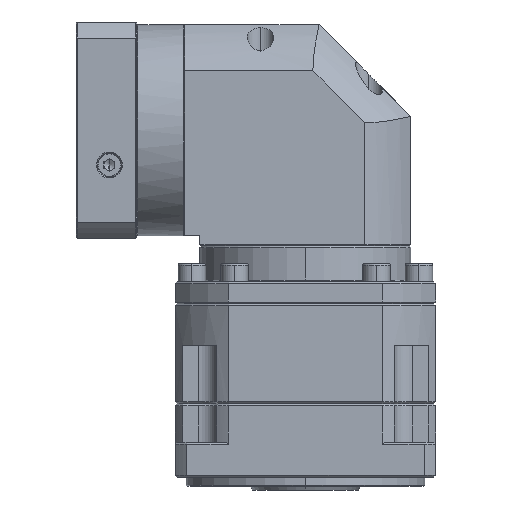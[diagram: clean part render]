
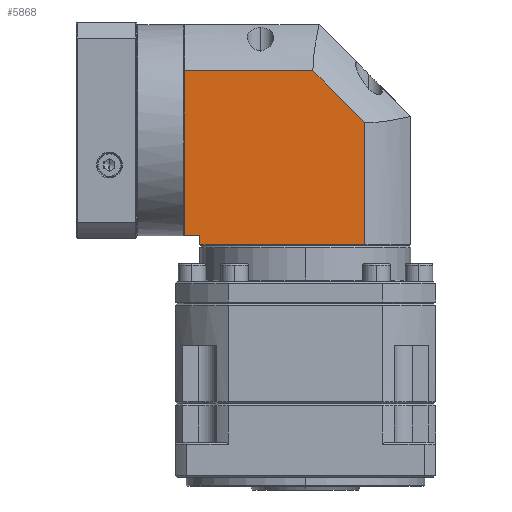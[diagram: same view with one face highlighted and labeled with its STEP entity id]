
A CAD part, left-side view. The second image highlights one B-rep face of the part: STEP entity #5868.
In plain terms, the highlighted planar face has unit normal (-1, 0, 0).
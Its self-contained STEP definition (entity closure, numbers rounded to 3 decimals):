
#5868 = ADVANCED_FACE ( 'NONE', ( #47840 ), #17943, .F. ) ;
#10016 = VERTEX_POINT ( 'NONE', #100817 ) ;
#10929 = ORIENTED_EDGE ( 'NONE', *, *, #75275, .F. ) ;
#15800 = DIRECTION ( 'NONE',  ( 0., -0.707, -0.707 ) ) ;
#16977 = ORIENTED_EDGE ( 'NONE', *, *, #93096, .F. ) ;
#17943 = PLANE ( 'NONE',  #18213 ) ;
#18213 = AXIS2_PLACEMENT_3D ( 'NONE', #94446, #29364, #105367 ) ;
#18849 = CARTESIAN_POINT ( 'NONE',  ( -214.696, 123.636, 62.156 ) ) ;
#20326 = CARTESIAN_POINT ( 'NONE',  ( -214.696, 115.236, 87.256 ) ) ;
#22526 = VECTOR ( 'NONE', #121301, 1000. ) ;
#23152 = ORIENTED_EDGE ( 'NONE', *, *, #107014, .F. ) ;
#26691 = VECTOR ( 'NONE', #60253, 1000. ) ;
#27225 = EDGE_CURVE ( 'NONE', #136640, #60943, #139270, .T. ) ;
#28063 = ORIENTED_EDGE ( 'NONE', *, *, #68668, .T. ) ;
#29364 = DIRECTION ( 'NONE',  ( 1., 0., 0. ) ) ;
#44899 = CARTESIAN_POINT ( 'NONE',  ( -214.696, 25.336, -39.244 ) ) ;
#44975 = DIRECTION ( 'NONE',  ( 0., -1., 0. ) ) ;
#47704 = CARTESIAN_POINT ( 'NONE',  ( -214.696, 53.674, 62.156 ) ) ;
#47840 = FACE_OUTER_BOUND ( 'NONE', #121031, .T. ) ;
#53643 = CARTESIAN_POINT ( 'NONE',  ( -214.696, 115.236, -32.744 ) ) ;
#55312 = VECTOR ( 'NONE', #116519, 1000. ) ;
#59953 = LINE ( 'NONE', #44899, #22526 ) ;
#60253 = DIRECTION ( 'NONE',  ( 0., -1., 0. ) ) ;
#60943 = VERTEX_POINT ( 'NONE', #131254 ) ;
#62478 = LINE ( 'NONE', #132366, #26691 ) ;
#63026 = DIRECTION ( 'NONE',  ( 0., 0., 1. ) ) ;
#65937 = CARTESIAN_POINT ( 'NONE',  ( -214.696, 115.236, -27.744 ) ) ;
#66024 = LINE ( 'NONE', #118023, #89813 ) ;
#68668 = EDGE_CURVE ( 'NONE', #123570, #10016, #140123, .T. ) ;
#72207 = CARTESIAN_POINT ( 'NONE',  ( -214.696, 123.636, -27.744 ) ) ;
#72864 = LINE ( 'NONE', #20326, #84827 ) ;
#74033 = LINE ( 'NONE', #138367, #55312 ) ;
#74120 = DIRECTION ( 'NONE',  ( 0., 0., -1. ) ) ;
#75045 = CARTESIAN_POINT ( 'NONE',  ( -214.696, 25.336, -32.744 ) ) ;
#75275 = EDGE_CURVE ( 'NONE', #109233, #136640, #62478, .T. ) ;
#78750 = EDGE_CURVE ( 'NONE', #10016, #98321, #72864, .T. ) ;
#84735 = ORIENTED_EDGE ( 'NONE', *, *, #27225, .F. ) ;
#84827 = VECTOR ( 'NONE', #74120, 1000. ) ;
#86108 = EDGE_CURVE ( 'NONE', #102817, #98321, #74033, .T. ) ;
#89813 = VECTOR ( 'NONE', #63026, 1000. ) ;
#93096 = EDGE_CURVE ( 'NONE', #60943, #102817, #59953, .T. ) ;
#94446 = CARTESIAN_POINT ( 'NONE',  ( -214.696, 0.236, -39.244 ) ) ;
#98321 = VERTEX_POINT ( 'NONE', #53643 ) ;
#100817 = CARTESIAN_POINT ( 'NONE',  ( -214.696, 115.236, -27.744 ) ) ;
#102817 = VERTEX_POINT ( 'NONE', #75045 ) ;
#105367 = DIRECTION ( 'NONE',  ( 0., -1., 0. ) ) ;
#107014 = EDGE_CURVE ( 'NONE', #123570, #109233, #66024, .T. ) ;
#109233 = VERTEX_POINT ( 'NONE', #18849 ) ;
#111261 = VECTOR ( 'NONE', #44975, 1000. ) ;
#112200 = VECTOR ( 'NONE', #15800, 1000. ) ;
#115606 = ORIENTED_EDGE ( 'NONE', *, *, #86108, .F. ) ;
#116519 = DIRECTION ( 'NONE',  ( 0., 1., 0. ) ) ;
#117817 = CARTESIAN_POINT ( 'NONE',  ( -214.696, 53.674, 62.156 ) ) ;
#118023 = CARTESIAN_POINT ( 'NONE',  ( -214.696, 123.636, -39.244 ) ) ;
#121031 = EDGE_LOOP ( 'NONE', ( #16977, #84735, #10929, #23152, #28063, #134516, #115606 ) ) ;
#121301 = DIRECTION ( 'NONE',  ( 0., 0., -1. ) ) ;
#123570 = VERTEX_POINT ( 'NONE', #72207 ) ;
#131254 = CARTESIAN_POINT ( 'NONE',  ( -214.696, 25.336, 33.818 ) ) ;
#132366 = CARTESIAN_POINT ( 'NONE',  ( -214.696, 0.236, 62.156 ) ) ;
#134516 = ORIENTED_EDGE ( 'NONE', *, *, #78750, .T. ) ;
#136640 = VERTEX_POINT ( 'NONE', #117817 ) ;
#138367 = CARTESIAN_POINT ( 'NONE',  ( -214.696, 0.236, -32.744 ) ) ;
#139270 = LINE ( 'NONE', #47704, #112200 ) ;
#140123 = LINE ( 'NONE', #65937, #111261 ) ;
